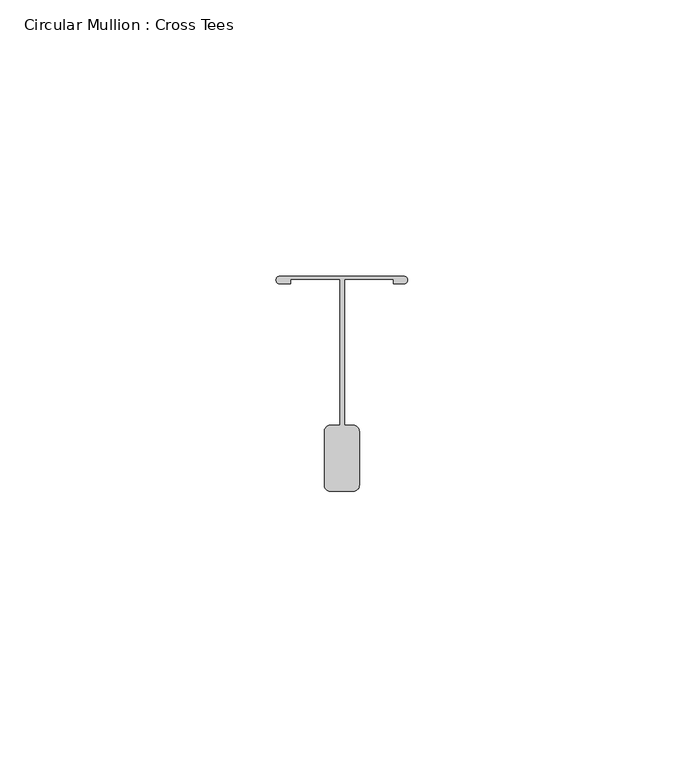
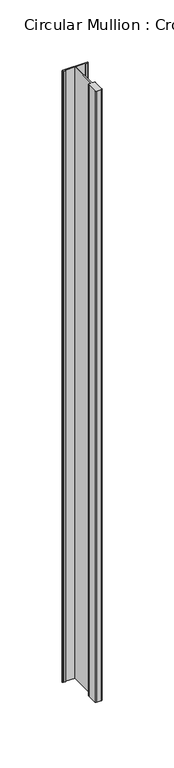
"""IFC4 building model written with IfcOpenShell, lengths in millimetres: member geometry, Circular Mullion : Cross Tees."""

import ifcopenshell
import ifcopenshell.guid

model = None  # the IFC model being written
_history = None  # IfcOwnerHistory: only IFC2X3 demands one
_inside = {}  # id of a spatial element -> (the spatial element, [elements in it])
_under = {}  # id of a project, library or spatial element -> (it, [spatial elements below it])
_declared = {}  # id of a project -> (the project, [libraries it declares])
_typed = {}  # id of a type object -> (the type object, [elements of that type])
_made_of = {}  # id of a material, layer set ... -> (it, [elements and type objects made of it])


def new_model(schema):
    """Start an empty IFC model of exactly this schema.

    Asked for "IFC4X3", IfcOpenShell would pick the latest addendum, in which some entities
    have other attributes; the version numbers below select the first issue.
    IFC2X3 requires an IfcOwnerHistory on every rooted entity: one is made here for all.
    """
    global model, _history
    if schema == "IFC4X3":
        model = ifcopenshell.file(schema_version=(4, 3, 0, 0))
    else:
        model = ifcopenshell.file(schema=schema)
    _inside.clear()
    _under.clear()
    _declared.clear()
    _typed.clear()
    _made_of.clear()
    _history = None
    if model.schema == "IFC2X3":
        org = make("IfcOrganization", Name="unknown")
        user = make(
            "IfcPersonAndOrganization",
            ThePerson=make("IfcPerson", FamilyName="unknown"),
            TheOrganization=org,
        )
        app = make(
            "IfcApplication",
            ApplicationDeveloper=org,
            Version="unknown",
            ApplicationFullName="unknown",
            ApplicationIdentifier="unknown",
        )
        _history = make(
            "IfcOwnerHistory",
            OwningUser=user,
            OwningApplication=app,
            ChangeAction="ADDED",
            CreationDate=0,
        )
    return model


def make(cls, **values):
    """One entity of the class cls with the attributes given. An attribute that is None is left unset."""
    return model.create_entity(
        cls, **{name: value for name, value in values.items() if value is not None}
    )


def rooted(cls, **values):
    """An entity with a GlobalId (a new one), such as an element, a storey or a relation."""
    return make(cls, GlobalId=ifcopenshell.guid.new(), OwnerHistory=_history, **values)


def si_unit(unit_type, name, prefix=None):
    """IfcSIUnit, for example si_unit("LENGTHUNIT", "METRE", prefix="MILLI")."""
    return make("IfcSIUnit", UnitType=unit_type, Prefix=prefix, Name=name)


def assignment(units):
    """IfcUnitAssignment: the units of a project."""
    return None if units is None else make("IfcUnitAssignment", Units=units)


def point(xyz):
    """IfcCartesianPoint."""
    return None if xyz is None else make("IfcCartesianPoint", Coordinates=xyz)


def direction(xyz):
    """IfcDirection."""
    return None if xyz is None else make("IfcDirection", DirectionRatios=xyz)


def frame(location, z_axis=None, x_axis=None):
    """IfcAxis2Placement3D, a coordinate frame: its origin and axes. An axis left out is left unset."""
    return make(
        "IfcAxis2Placement3D",
        Location=point(location),
        Axis=direction(z_axis),
        RefDirection=direction(x_axis),
    )


def frame_2d(location, x_axis=None):
    """IfcAxis2Placement2D, a coordinate frame in the plane: its origin and x axis."""
    return make(
        "IfcAxis2Placement2D", Location=point(location), RefDirection=direction(x_axis)
    )


def origin():
    """The frame at (0, 0, 0) with its axes left unset."""
    return frame((0.0, 0.0, 0.0))


def place(relative_to, where):
    """IfcLocalPlacement: puts the frame where relative to a parent placement (None: the world)."""
    return make(
        "IfcLocalPlacement", PlacementRelTo=relative_to, RelativePlacement=where
    )


def context(
    kind, dimensions, precision=None, world=None, true_north=None, identifier=None
):
    """IfcGeometricRepresentationContext, for example the 3D "Model" context."""
    return make(
        "IfcGeometricRepresentationContext",
        ContextIdentifier=identifier,
        ContextType=kind,
        CoordinateSpaceDimension=dimensions,
        Precision=precision,
        WorldCoordinateSystem=world,
        TrueNorth=true_north,
    )


def project(units=None, contexts=None):
    """IfcProject with its units and contexts."""
    return rooted(
        "IfcProject",
        Name="project",
        RepresentationContexts=contexts,
        UnitsInContext=assignment(units),
    )


def spatial(cls, under=None, at=None, **own):
    """A site, building, storey or space (cls), placed at a placement, below another one or the project."""
    s = rooted(cls, ObjectPlacement=at, **own)
    if under is not None:
        _under.setdefault(under.id(), (under, []))[1].append(s)
    return s


def polyline(points):
    """IfcPolyline through the points."""
    return make("IfcPolyline", Points=[point(p) for p in points])


def circle_curve(where, radius):
    """IfcCircle in the frame where."""
    return make("IfcCircle", Position=where, Radius=radius)


def trimmed(basis, trim1, trim2, sense, master):
    """IfcTrimmedCurve: the piece of a basis curve between two trims."""
    return make(
        "IfcTrimmedCurve",
        BasisCurve=basis,
        Trim1=trim1,
        Trim2=trim2,
        SenseAgreement=sense,
        MasterRepresentation=master,
    )


def segment(curve, same_sense, transition):
    """IfcCompositeCurveSegment."""
    return make(
        "IfcCompositeCurveSegment",
        Transition=transition,
        SameSense=same_sense,
        ParentCurve=curve,
    )


def composite_curve(segments, self_intersect=None):
    """IfcCompositeCurve: segments joined end to end."""
    return make("IfcCompositeCurve", Segments=segments, SelfIntersect=self_intersect)


def outline(outer, holes=None, kind="AREA"):
    """IfcArbitraryClosedProfileDef: a profile drawn as a closed curve; with holes, ...WithVoids."""
    if holes is None:
        return make("IfcArbitraryClosedProfileDef", ProfileType=kind, OuterCurve=outer)
    return make(
        "IfcArbitraryProfileDefWithVoids",
        ProfileType=kind,
        OuterCurve=outer,
        InnerCurves=holes,
    )


def extrude(swept, where, along, depth):
    """IfcExtrudedAreaSolid: the profile swept, set in the frame where, extruded along a direction by depth."""
    return make(
        "IfcExtrudedAreaSolid",
        SweptArea=swept,
        Position=where,
        ExtrudedDirection=direction(along),
        Depth=depth,
    )


def shape(context_of_items, identifier, shape_type, items):
    """IfcShapeRepresentation: the items that make up one representation, for example the "Body"."""
    return make(
        "IfcShapeRepresentation",
        ContextOfItems=context_of_items,
        RepresentationIdentifier=identifier,
        RepresentationType=shape_type,
        Items=items,
    )


def source(mapping_origin, context_of_items, identifier, shape_type, items):
    """IfcRepresentationMap: a shape defined once, which mapped items show again and again."""
    return make(
        "IfcRepresentationMap",
        MappingOrigin=mapping_origin,
        MappedRepresentation=shape(context_of_items, identifier, shape_type, items),
    )


def transform(
    local_origin,
    x_axis=None,
    y_axis=None,
    z_axis=None,
    scale=None,
    scale2=None,
    scale3=None,
    uniform=True,
):
    """IfcCartesianTransformationOperator3D, or its non-uniform kind. x_axis, y_axis, z_axis: its Axis1, 2, 3."""
    if uniform:
        return make(
            "IfcCartesianTransformationOperator3D",
            Axis1=direction(x_axis),
            Axis2=direction(y_axis),
            LocalOrigin=point(local_origin),
            Scale=scale,
            Axis3=direction(z_axis),
        )
    return make(
        "IfcCartesianTransformationOperator3DnonUniform",
        Axis1=direction(x_axis),
        Axis2=direction(y_axis),
        LocalOrigin=point(local_origin),
        Scale=scale,
        Axis3=direction(z_axis),
        Scale2=scale2,
        Scale3=scale3,
    )


def mapped(mapping_source, mapping_target):
    """IfcMappedItem: shows the shape of a source again, moved by a transform."""
    return make(
        "IfcMappedItem", MappingSource=mapping_source, MappingTarget=mapping_target
    )


def made_of(thing, what):
    """Note that an element or type object is made of a material, layer set ...; save() writes the relation."""
    if what is not None:
        _made_of.setdefault(what.id(), (what, []))[1].append(thing)
    return thing


def element(
    cls,
    number,
    at=None,
    inside=None,
    cuts=None,
    type_object=None,
    material=None,
    context=None,
    identifier="Body",
    shape_type=None,
    held_by="IfcProductDefinitionShape",
    body=None,
    shapes=None,
    **own,
):
    """One element of the class cls, such as IfcWall. Its Tag is "e" and its number.

    at: its placement. inside: the storey or other place that contains it. cuts: it is an
    opening in that element (IfcRelVoidsElement). A single representation is given by context,
    identifier, shape_type and body (its items); several are given by shapes. held_by: the class
    of the entity that holds the representations. save() writes the other relations.
    """
    e = rooted(cls, Tag="e%d" % number, ObjectPlacement=at, **own)
    if body is not None:
        shapes = [shape(context, identifier, shape_type, body)]
    if shapes is not None:
        e.Representation = make(held_by, Representations=shapes)
    if inside is not None:
        _inside.setdefault(inside.id(), (inside, []))[1].append(e)
    if cuts is not None:
        rooted(
            "IfcRelVoidsElement", RelatingBuildingElement=cuts, RelatedOpeningElement=e
        )
    if type_object is not None:
        _typed.setdefault(type_object.id(), (type_object, []))[1].append(e)
    return made_of(e, material)


def aggregate(whole, parts):
    """IfcRelAggregates: a whole, such as a stair, and the parts it consists of."""
    return rooted("IfcRelAggregates", RelatingObject=whole, RelatedObjects=parts)


def save(model, path):
    """Write the relations noted so far, then the file.

    IfcRelAggregates (storeys below a building ...), IfcRelContainedInSpatialStructure (elements
    in a storey), IfcRelDefinesByType, IfcRelAssociatesMaterial and IfcRelDeclares: one each for
    every whole, place, type object, material and project.
    """
    for whole, parts in _under.values():
        aggregate(whole, parts)
    for where, things in _inside.values():
        rooted(
            "IfcRelContainedInSpatialStructure",
            RelatedElements=things,
            RelatingStructure=where,
        )
    for kind, things in _typed.values():
        rooted("IfcRelDefinesByType", RelatedObjects=things, RelatingType=kind)
    for what, things in _made_of.values():
        rooted("IfcRelAssociatesMaterial", RelatedObjects=things, RelatingMaterial=what)
    for by, libraries in _declared.values():
        rooted("IfcRelDeclares", RelatingContext=by, RelatedDefinitions=libraries)
    model.write(path)


def circular_mullion_cross_tees_bf580255(model_context):
    return source(origin(), model_context, "Body", "SweptSolid", [
        extrude(outline(composite_curve([segment(trimmed(circle_curve(frame_2d((2.0974658, -21.4507967)), 1.0775342), [point((2.0974658, -20.3732625))], [point((3.175, -21.4507967))], False, "CARTESIAN"), True, "CONTINUOUS"), segment(polyline([(3.175, -21.4507967), (3.175, -31.2019783)]), True, "CONTINUOUS"), segment(trimmed(circle_curve(frame_2d((2.0974658, -31.2019783)), 1.0775342), [point((3.175, -31.2019783))], [point((2.0974658, -32.2795125))], False, "CARTESIAN"), True, "CONTINUOUS"), segment(polyline([(2.0974658, -32.2795125), (-2.0974658, -32.2795125)]), True, "CONTINUOUS"), segment(trimmed(circle_curve(frame_2d((-2.0974658, -31.2019783)), 1.0775342), [point((-2.0974658, -32.2795125))], [point((-3.175, -31.2019783))], False, "CARTESIAN"), True, "CONTINUOUS"), segment(polyline([(-3.175, -31.2019783), (-3.175, -21.4507967)]), True, "CONTINUOUS"), segment(trimmed(circle_curve(frame_2d((-2.0974658, -21.4507967)), 1.0775342), [point((-3.175, -21.4507967))], [point((-2.0974658, -20.3732625))], False, "CARTESIAN"), True, "CONTINUOUS"), segment(polyline([(-2.0974658, -20.3732625), (-0.3211248, -20.3732625), (-0.3211248, 6.0459958), (-9.318924, 6.0459958), (-9.318924, 5.2459958), (-11.2221291, 5.2459958)]), True, "CONTINUOUS"), segment(trimmed(circle_curve(frame_2d((-11.2221291, 5.9301166)), 0.6841209), [point((-11.2221291, 5.2459958))], [point((-11.90625, 5.9301166))], False, "CARTESIAN"), True, "CONTINUOUS"), segment(trimmed(circle_curve(frame_2d((-11.2221291, 5.9301166)), 0.6841209), [point((-11.90625, 5.9301166))], [point((-11.2221291, 6.6142375))], False, "CARTESIAN"), True, "CONTINUOUS"), segment(polyline([(-11.2221291, 6.6142375), (11.2221291, 6.6142375)]), True, "CONTINUOUS"), segment(trimmed(circle_curve(frame_2d((11.2221291, 5.9301166)), 0.6841209), [point((11.2221291, 6.6142375))], [point((11.90625, 5.9301166))], False, "CARTESIAN"), True, "CONTINUOUS"), segment(trimmed(circle_curve(frame_2d((11.2221291, 5.9301166)), 0.6841209), [point((11.90625, 5.9301166))], [point((11.2221291, 5.2459958))], False, "CARTESIAN"), True, "CONTINUOUS"), segment(polyline([(11.2221291, 5.2459958), (9.318924, 5.2459958), (9.318924, 6.0459958), (0.5117194, 6.0459958), (0.5117194, -20.3732625), (2.0974658, -20.3732625)]), True, "CONTINUOUS")], self_intersect=False)), frame((0.0, 0.0, -600.0), z_axis=(0.0, 0.0, 1.0), x_axis=(1.0, 0.0, 0.0)), (0.0, 0.0, 1.0), 600.0),
    ])


if __name__ == "__main__":
    model = new_model("IFC4")
    model_context = context("Model", 3, world=origin())
    ifc_project = project(units=[si_unit("LENGTHUNIT", "METRE", prefix="MILLI")], contexts=[model_context])
    site = spatial("IfcSite", under=ifc_project)
    building = spatial("IfcBuilding", under=site)
    placement = place(None, origin())
    circular_mullion_cross_tees_shape = circular_mullion_cross_tees_bf580255(model_context)
    element("IfcMember", 1, ObjectType="Circular Mullion : Cross Tees", at=placement, inside=building, context=model_context, shape_type="MappedRepresentation", body=[
        mapped(circular_mullion_cross_tees_shape, transform((0.0, 0.0, 0.0), x_axis=(1.0, 0.0, 0.0), y_axis=(0.0, 1.0, 0.0), z_axis=(0.0, 0.0, 1.0))),
    ])
    save(model, "model.ifc")
